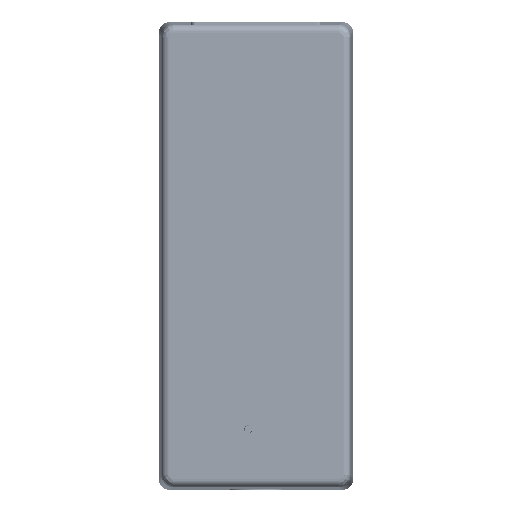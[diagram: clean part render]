
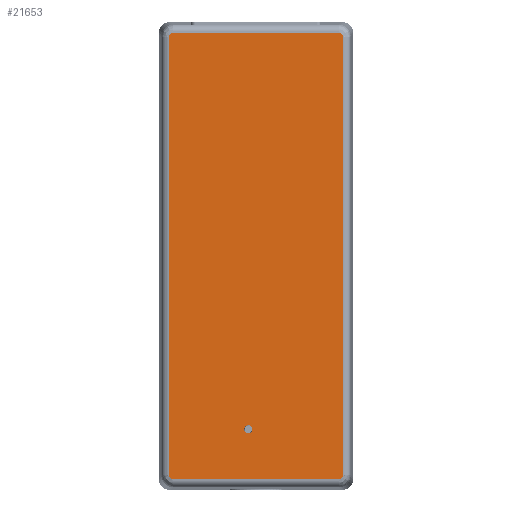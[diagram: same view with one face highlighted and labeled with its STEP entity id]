
A CAD part, front view. The second image highlights one B-rep face of the part: STEP entity #21653.
In plain terms, the highlighted planar face has unit normal (0, -1, 0).
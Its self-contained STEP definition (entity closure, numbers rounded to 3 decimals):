
#13784=CARTESIAN_POINT('',(-21.273,-16.,
56.273));
#13785=DIRECTION('',(0.,1.,0.));
#13786=DIRECTION('',(-1.,0.,-0.001));
#13787=AXIS2_PLACEMENT_3D('',#13784,#13785,#13786);
#13793=CARTESIAN_POINT('',(21.273,-16.,
56.273));
#13794=DIRECTION('',(0.,1.,0.));
#13795=DIRECTION('',(-0.001,0.,1.));
#13796=AXIS2_PLACEMENT_3D('',#13793,#13794,#13795);
#13801=CARTESIAN_POINT('',(21.273,-16.,
-56.273));
#13802=DIRECTION('',(0.,1.,0.));
#13803=DIRECTION('',(1.,0.,0.001));
#13804=AXIS2_PLACEMENT_3D('',#13801,#13802,#13803);
#13809=CARTESIAN_POINT('',(-21.273,-16.,
-56.273));
#13810=DIRECTION('',(0.,1.,0.));
#13811=DIRECTION('',(0.001,0.,-1.));
#13812=AXIS2_PLACEMENT_3D('',#13809,#13810,#13811);
#13817=CARTESIAN_POINT('',(-1.95,-16.,-44.45));
#13818=DIRECTION('',(0.,1.,0.));
#13819=DIRECTION('',(-1.,0.,0.));
#13820=AXIS2_PLACEMENT_3D('',#13817,#13818,#13819);
#13825=CARTESIAN_POINT('',(-1.95,-16.,-44.45));
#13826=DIRECTION('',(0.,1.,0.));
#13827=DIRECTION('',(1.,0.,0.));
#13828=AXIS2_PLACEMENT_3D('',#13825,#13826,#13827);
#13862=DIRECTION('',(0.,0.,-1.));
#13863=VECTOR('',#13862,112.545);
#13864=CARTESIAN_POINT('',(-22.271,-16.,
56.273));
#13865=LINE('',#13864,#13863);
#13905=DIRECTION('',(1.,0.,0.));
#13906=VECTOR('',#13905,42.545);
#13907=CARTESIAN_POINT('',(-21.273,-16.,
-57.271));
#13908=LINE('',#13907,#13906);
#13948=DIRECTION('',(0.,0.,1.));
#13949=VECTOR('',#13948,112.545);
#13950=CARTESIAN_POINT('',(22.271,-16.,
-56.273));
#13951=LINE('',#13950,#13949);
#13991=DIRECTION('',(-1.,0.,0.));
#13992=VECTOR('',#13991,42.545);
#13993=CARTESIAN_POINT('',(21.273,-16.,
57.271));
#13994=LINE('',#13993,#13992);
#20639=CARTESIAN_POINT('',(-22.271,-16.,
56.273));
#20640=CARTESIAN_POINT('',(-21.273,-16.,
57.271));
#20641=VERTEX_POINT('',#20639);
#20642=VERTEX_POINT('',#20640);
#20643=CARTESIAN_POINT('',(21.273,-16.,
57.271));
#20644=VERTEX_POINT('',#20643);
#20645=CARTESIAN_POINT('',(22.271,-16.,
56.273));
#20646=VERTEX_POINT('',#20645);
#20647=CARTESIAN_POINT('',(22.271,-16.,
-56.273));
#20648=VERTEX_POINT('',#20647);
#20649=CARTESIAN_POINT('',(21.273,-16.,
-57.271));
#20650=VERTEX_POINT('',#20649);
#20651=CARTESIAN_POINT('',(-21.273,-16.,
-57.271));
#20652=VERTEX_POINT('',#20651);
#20653=CARTESIAN_POINT('',(-22.271,-16.,
-56.273));
#20654=VERTEX_POINT('',#20653);
#21564=CARTESIAN_POINT('',(-3.,-16.,-44.45));
#21565=CARTESIAN_POINT('',(-0.9,-16.,-44.45));
#21566=VERTEX_POINT('',#21564);
#21567=VERTEX_POINT('',#21565);
#21624=CARTESIAN_POINT('',(0.,-16.,0.));
#21625=DIRECTION('',(0.,1.,0.));
#21626=DIRECTION('',(1.,0.,0.));
#21627=AXIS2_PLACEMENT_3D('',#21624,#21625,#21626);
#21628=PLANE('',#21627);
#21630=ORIENTED_EDGE('',*,*,#21629,.T.);
#21632=ORIENTED_EDGE('',*,*,#21631,.F.);
#21634=ORIENTED_EDGE('',*,*,#21633,.T.);
#21636=ORIENTED_EDGE('',*,*,#21635,.F.);
#21638=ORIENTED_EDGE('',*,*,#21637,.T.);
#21640=ORIENTED_EDGE('',*,*,#21639,.F.);
#21642=ORIENTED_EDGE('',*,*,#21641,.T.);
#21644=ORIENTED_EDGE('',*,*,#21643,.F.);
#21645=EDGE_LOOP('',(#21630,#21632,#21634,#21636,#21638,#21640,#21642,#21644));
#21646=FACE_OUTER_BOUND('',#21645,.F.);
#21648=ORIENTED_EDGE('',*,*,#21647,.F.);
#21650=ORIENTED_EDGE('',*,*,#21649,.F.);
#21651=EDGE_LOOP('',(#21648,#21650));
#21652=FACE_BOUND('',#21651,.F.);
#21653=ADVANCED_FACE('',(#21646,#21652),#21628,.F.);
#13788=CIRCLE('',#13787,0.998);
#13797=CIRCLE('',#13796,0.998);
#13805=CIRCLE('',#13804,0.998);
#13813=CIRCLE('',#13812,0.998);
#13821=CIRCLE('',#13820,1.05);
#13829=CIRCLE('',#13828,1.05);
#21629=EDGE_CURVE('',#20641,#20642,#13788,.T.);
#21631=EDGE_CURVE('',#20644,#20642,#13994,.T.);
#21633=EDGE_CURVE('',#20644,#20646,#13797,.T.);
#21635=EDGE_CURVE('',#20648,#20646,#13951,.T.);
#21637=EDGE_CURVE('',#20648,#20650,#13805,.T.);
#21639=EDGE_CURVE('',#20652,#20650,#13908,.T.);
#21641=EDGE_CURVE('',#20652,#20654,#13813,.T.);
#21643=EDGE_CURVE('',#20641,#20654,#13865,.T.);
#21647=EDGE_CURVE('',#21566,#21567,#13821,.T.);
#21649=EDGE_CURVE('',#21567,#21566,#13829,.T.);
